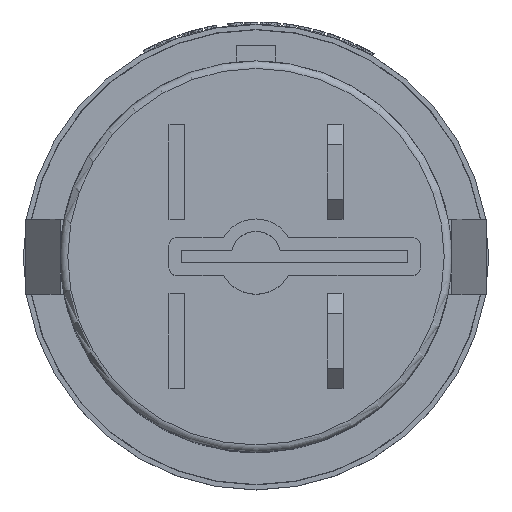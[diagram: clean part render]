
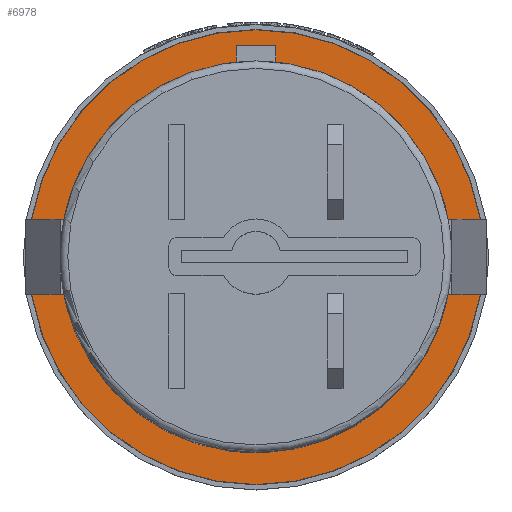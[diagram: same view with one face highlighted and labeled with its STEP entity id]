
A CAD part, top view. The second image highlights one B-rep face of the part: STEP entity #6978.
In plain terms, the highlighted planar face has unit normal (0, 0, 1).
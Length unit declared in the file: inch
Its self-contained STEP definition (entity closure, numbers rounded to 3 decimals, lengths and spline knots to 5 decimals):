
#68=FACE_BOUND('',#1109,.T.);
#69=FACE_BOUND('',#1110,.T.);
#70=FACE_BOUND('',#1111,.T.);
#196=PLANE('',#7394);
#705=FACE_OUTER_BOUND('',#1108,.T.);
#1108=EDGE_LOOP('',(#6159));
#1109=EDGE_LOOP('',(#6160,#6161,#6162,#6163,#6164,#6165,#6166));
#1110=EDGE_LOOP('',(#6167,#6168,#6169,#6170));
#1111=EDGE_LOOP('',(#6171,#6172,#6173,#6174));
#1349=CIRCLE('',#7384,0.0025);
#1351=CIRCLE('',#7388,0.0025);
#1354=CIRCLE('',#7395,0.45276);
#1355=CIRCLE('',#7396,0.38976);
#1356=CIRCLE('',#7397,0.38976);
#1769=LINE('',#15225,#2329);
#1773=LINE('',#15237,#2333);
#1776=LINE('',#15243,#2336);
#1779=LINE('',#15257,#2339);
#1780=LINE('',#15259,#2340);
#1781=LINE('',#15261,#2341);
#1782=LINE('',#15262,#2342);
#1783=LINE('',#15265,#2343);
#1784=LINE('',#15267,#2344);
#1785=LINE('',#15269,#2345);
#1786=LINE('',#15270,#2346);
#2329=VECTOR('',#8486,0.3937);
#2333=VECTOR('',#8498,0.3937);
#2336=VECTOR('',#8503,0.3937);
#2339=VECTOR('',#8518,0.3937);
#2340=VECTOR('',#8519,0.3937);
#2341=VECTOR('',#8520,0.3937);
#2342=VECTOR('',#8521,0.3937);
#2343=VECTOR('',#8522,0.3937);
#2344=VECTOR('',#8523,0.3937);
#2345=VECTOR('',#8524,0.3937);
#2346=VECTOR('',#8525,0.3937);
#3336=VERTEX_POINT('',#15215);
#3337=VERTEX_POINT('',#15216);
#3340=VERTEX_POINT('',#15224);
#3342=VERTEX_POINT('',#15230);
#3344=VERTEX_POINT('',#15236);
#3346=VERTEX_POINT('',#15242);
#3348=VERTEX_POINT('',#15250);
#3349=VERTEX_POINT('',#15252);
#3350=VERTEX_POINT('',#15255);
#3351=VERTEX_POINT('',#15256);
#3352=VERTEX_POINT('',#15258);
#3353=VERTEX_POINT('',#15260);
#3354=VERTEX_POINT('',#15263);
#3355=VERTEX_POINT('',#15264);
#3356=VERTEX_POINT('',#15266);
#3357=VERTEX_POINT('',#15268);
#4295=EDGE_CURVE('',#3336,#3337,#1349,.T.);
#4299=EDGE_CURVE('',#3337,#3340,#1769,.T.);
#4302=EDGE_CURVE('',#3340,#3342,#1351,.T.);
#4305=EDGE_CURVE('',#3342,#3344,#1773,.T.);
#4308=EDGE_CURVE('',#3346,#3336,#1776,.T.);
#4312=EDGE_CURVE('',#3348,#3348,#1354,.T.);
#4313=EDGE_CURVE('',#3344,#3349,#1355,.T.);
#4314=EDGE_CURVE('',#3349,#3346,#1356,.T.);
#4315=EDGE_CURVE('',#3350,#3351,#1779,.T.);
#4316=EDGE_CURVE('',#3351,#3352,#1780,.T.);
#4317=EDGE_CURVE('',#3352,#3353,#1781,.T.);
#4318=EDGE_CURVE('',#3353,#3350,#1782,.T.);
#4319=EDGE_CURVE('',#3354,#3355,#1783,.T.);
#4320=EDGE_CURVE('',#3355,#3356,#1784,.T.);
#4321=EDGE_CURVE('',#3356,#3357,#1785,.T.);
#4322=EDGE_CURVE('',#3357,#3354,#1786,.T.);
#6159=ORIENTED_EDGE('',*,*,#4312,.T.);
#6160=ORIENTED_EDGE('',*,*,#4308,.T.);
#6161=ORIENTED_EDGE('',*,*,#4295,.T.);
#6162=ORIENTED_EDGE('',*,*,#4299,.T.);
#6163=ORIENTED_EDGE('',*,*,#4302,.T.);
#6164=ORIENTED_EDGE('',*,*,#4305,.T.);
#6165=ORIENTED_EDGE('',*,*,#4313,.T.);
#6166=ORIENTED_EDGE('',*,*,#4314,.T.);
#6167=ORIENTED_EDGE('',*,*,#4315,.T.);
#6168=ORIENTED_EDGE('',*,*,#4316,.T.);
#6169=ORIENTED_EDGE('',*,*,#4317,.T.);
#6170=ORIENTED_EDGE('',*,*,#4318,.T.);
#6171=ORIENTED_EDGE('',*,*,#4319,.T.);
#6172=ORIENTED_EDGE('',*,*,#4320,.T.);
#6173=ORIENTED_EDGE('',*,*,#4321,.T.);
#6174=ORIENTED_EDGE('',*,*,#4322,.T.);
#6978=ADVANCED_FACE('',(#705,#68,#69,#70),#196,.T.);
#7384=AXIS2_PLACEMENT_3D('',#15217,#8478,#8479);
#7388=AXIS2_PLACEMENT_3D('',#15231,#8491,#8492);
#7394=AXIS2_PLACEMENT_3D('',#15249,#8510,#8511);
#7395=AXIS2_PLACEMENT_3D('',#15251,#8512,#8513);
#7396=AXIS2_PLACEMENT_3D('',#15253,#8514,#8515);
#7397=AXIS2_PLACEMENT_3D('',#15254,#8516,#8517);
#8478=DIRECTION('center_axis',(0.,0.,-1.));
#8479=DIRECTION('ref_axis',(0.,-1.,0.));
#8486=DIRECTION('',(1.,0.,0.));
#8491=DIRECTION('center_axis',(0.,0.,-1.));
#8492=DIRECTION('ref_axis',(-1.,0.,0.));
#8498=DIRECTION('',(0.,-1.,0.));
#8503=DIRECTION('',(0.,1.,0.));
#8510=DIRECTION('center_axis',(0.,0.,1.));
#8511=DIRECTION('ref_axis',(1.,0.,0.));
#8512=DIRECTION('center_axis',(0.,0.,1.));
#8513=DIRECTION('ref_axis',(1.,0.,0.));
#8514=DIRECTION('center_axis',(0.,0.,-1.));
#8515=DIRECTION('ref_axis',(-1.,0.,0.));
#8516=DIRECTION('center_axis',(0.,0.,-1.));
#8517=DIRECTION('ref_axis',(-1.,0.,0.));
#8518=DIRECTION('',(-1.,0.,0.));
#8519=DIRECTION('',(0.,1.,0.));
#8520=DIRECTION('',(1.,0.,0.));
#8521=DIRECTION('',(0.,-1.,0.));
#8522=DIRECTION('',(-1.,0.,0.));
#8523=DIRECTION('',(0.,1.,0.));
#8524=DIRECTION('',(1.,0.,0.));
#8525=DIRECTION('',(0.,-1.,0.));
#15215=CARTESIAN_POINT('',(-0.03937,0.41876,0.));
#15216=CARTESIAN_POINT('',(-0.03687,0.42126,0.));
#15217=CARTESIAN_POINT('Origin',(-0.03687,0.41876,
0.));
#15224=CARTESIAN_POINT('',(0.03687,0.42126,0.));
#15225=CARTESIAN_POINT('',(0.01844,0.42126,0.));
#15230=CARTESIAN_POINT('',(0.03937,0.41876,0.));
#15231=CARTESIAN_POINT('Origin',(0.03687,0.41876,0.));
#15236=CARTESIAN_POINT('',(0.03937,0.38777,0.));
#15237=CARTESIAN_POINT('',(0.03937,0.19389,0.));
#15242=CARTESIAN_POINT('',(-0.03937,0.38777,0.));
#15243=CARTESIAN_POINT('',(-0.03937,0.20938,0.));
#15249=CARTESIAN_POINT('Origin',(0.,0.,0.));
#15250=CARTESIAN_POINT('',(-0.45276,0.,0.));
#15251=CARTESIAN_POINT('Origin',(0.,0.,0.));
#15252=CARTESIAN_POINT('',(0.38976,0.,0.));
#15253=CARTESIAN_POINT('Origin',(0.,0.,0.));
#15254=CARTESIAN_POINT('Origin',(0.,0.,0.));
#15255=CARTESIAN_POINT('',(-0.39058,-0.075,0.));
#15256=CARTESIAN_POINT('',(-0.39063,-0.075,0.));
#15257=CARTESIAN_POINT('',(-0.20811,-0.075,0.));
#15258=CARTESIAN_POINT('',(-0.39063,0.075,0.));
#15259=CARTESIAN_POINT('',(-0.39063,0.,0.));
#15260=CARTESIAN_POINT('',(-0.39058,0.075,0.));
#15261=CARTESIAN_POINT('',(-0.20811,0.075,0.));
#15262=CARTESIAN_POINT('',(-0.39058,0.,0.));
#15263=CARTESIAN_POINT('',(0.39063,-0.075,0.));
#15264=CARTESIAN_POINT('',(0.39058,-0.075,0.));
#15265=CARTESIAN_POINT('',(0.20811,-0.075,0.));
#15266=CARTESIAN_POINT('',(0.39058,0.075,0.));
#15267=CARTESIAN_POINT('',(0.39058,0.,0.));
#15268=CARTESIAN_POINT('',(0.39063,0.075,0.));
#15269=CARTESIAN_POINT('',(0.20811,0.075,0.));
#15270=CARTESIAN_POINT('',(0.39063,0.,0.));
